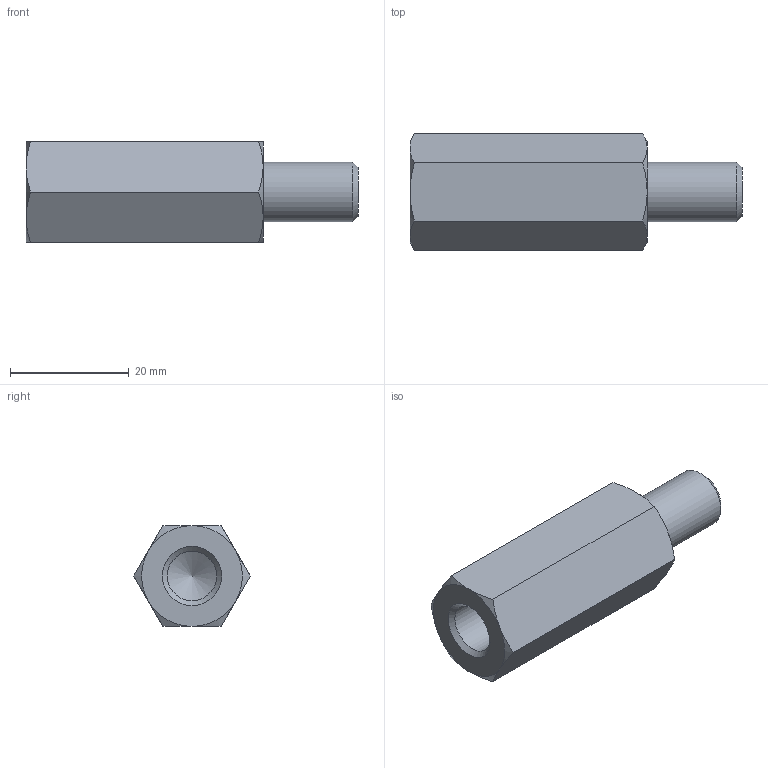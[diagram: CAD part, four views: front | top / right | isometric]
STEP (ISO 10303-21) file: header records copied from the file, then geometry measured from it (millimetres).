
FILE_DESCRIPTION( ( 'STEP AP203' ), '1' );
FILE_NAME( 'C:/Temp/Ganter_Step_05_03_2020/data/3_2/gn6220/gn6220_st/Spacer GN 6220-ST-M10-40-B.stp', '2020-03-13T05:42:53', ( 'License CC BY-ND 4.0' ), ( 'CADENAS' ), ' ', 'PARTsolutions', ' ' );
FILE_SCHEMA( ( 'CONFIG_CONTROL_DESIGN' ) );
Length unit declared in the file: millimetre
Products named in the file (1): _Spacer GN 6220-ST-M10-40-B
Bounding box: 56 x 19.63 x 17 mm (x, y, z)
Volume: 9795.2 mm3; surface area: 3980.6 mm2
Topology: 1 solids, 1 shells, 26 faces, 55 edges, 32 vertices
Faces by surface type: cone 15, plane 9, cylinder 2
Full cylindrical faces by diameter (mm): 8.376 x1, 10 x1
Entity records: 778 total; most frequent: CARTESIAN_POINT 242, DIRECTION 96, ORIENTED_EDGE 96, EDGE_CURVE 48, AXIS2_PLACEMENT_3D 45, EDGE_LOOP 32, VERTEX_POINT 31, FACE_OUTER_BOUND 28
